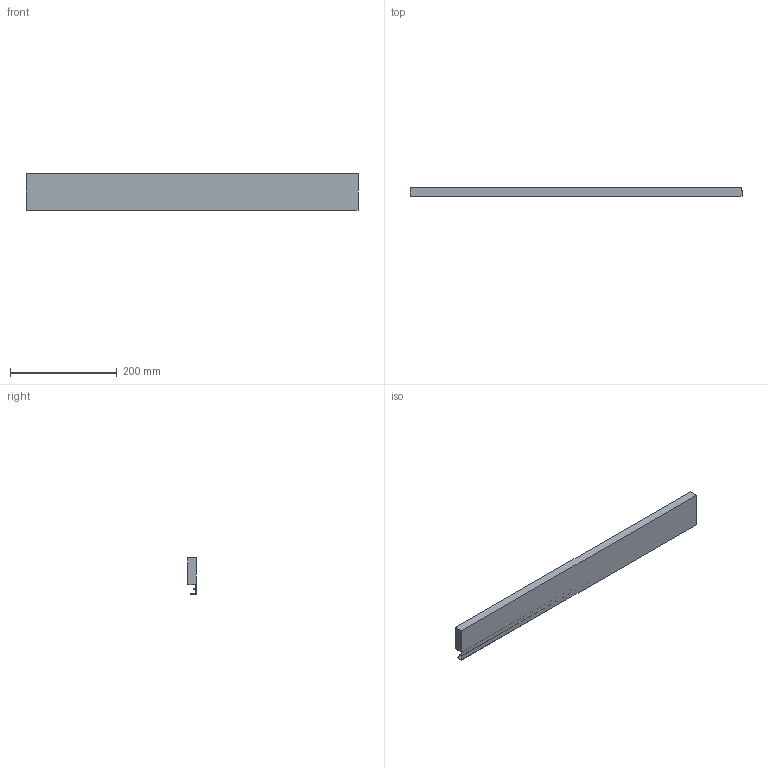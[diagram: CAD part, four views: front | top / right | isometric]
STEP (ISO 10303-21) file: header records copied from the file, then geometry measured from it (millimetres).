
FILE_DESCRIPTION (( 'STEP AP214' ), '1' );
FILE_NAME ('Innenschub-Blendenprofil_KAB750_S19.step', '2010-09-23T12:27:11', ( 'grass' ), ( '' ), 'SwSTEP 2.0', 'SolidWorks 2010', '' );
FILE_SCHEMA (( 'AUTOMOTIVE_DESIGN' ));
Length unit declared in the file: millimetre
Products named in the file (1): Innenschub-Blendenprofil_KAB750_S19
Bounding box: 621 x 15.9 x 67.6 mm (x, y, z)
Volume: 514904.3 mm3; surface area: 123533.2 mm2
Topology: 1 solids, 1 shells, 17 faces, 42 edges, 28 vertices
Faces by surface type: plane 15, cylinder 2
Entity records: 534 total; most frequent: CARTESIAN_POINT 88, ORIENTED_EDGE 84, DIRECTION 82, EDGE_CURVE 42, LINE 38, VECTOR 38, VERTEX_POINT 28, AXIS2_PLACEMENT_3D 22
